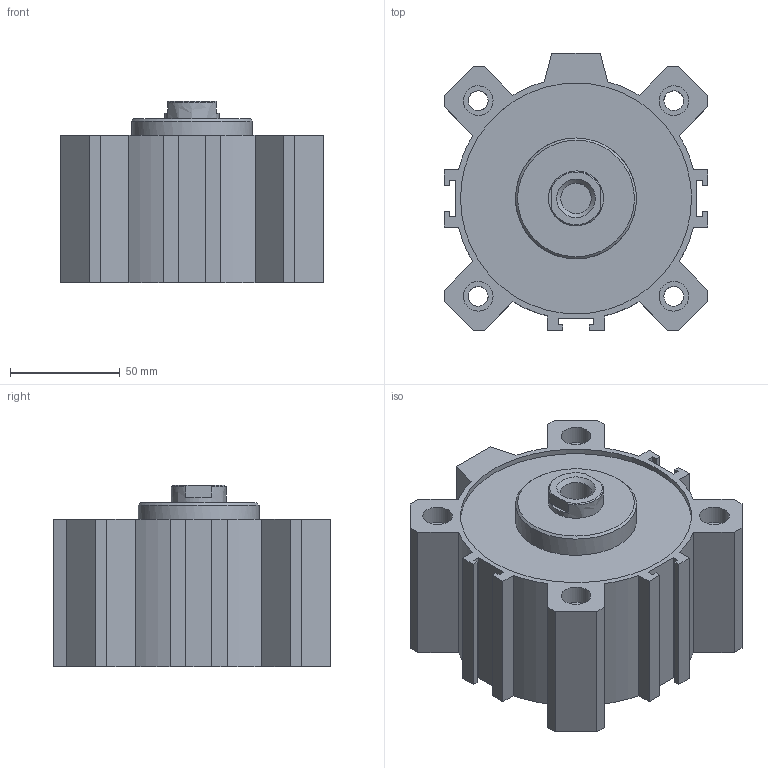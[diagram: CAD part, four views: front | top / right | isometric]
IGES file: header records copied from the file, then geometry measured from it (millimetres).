
Global section: file name: 1511_100_0015; native system: Autodesk Inventor 2014; preprocessor: unknown; author: A. Manieri; date: 20160824.162519; units: millimetre
Bounding box: 120 x 126 x 82.5 mm (x, y, z)
Volume: 660885.6 mm3; surface area: 130399.5 mm2
Topology: 2 solids, 2 shells, 119 faces, 307 edges, 210 vertices
Faces by surface type: bspline 119
